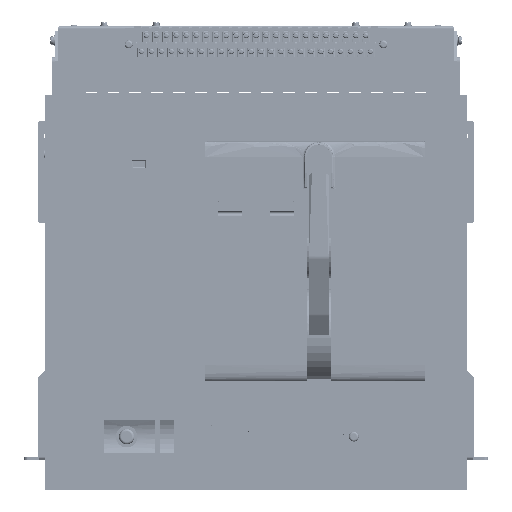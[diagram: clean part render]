
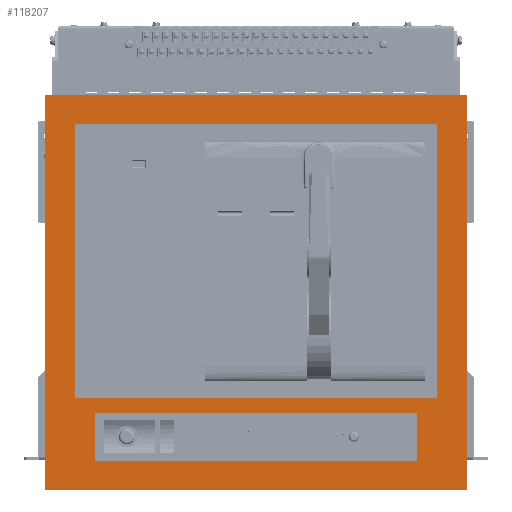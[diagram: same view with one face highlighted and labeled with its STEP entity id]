
A CAD part, top view. The second image highlights one B-rep face of the part: STEP entity #118207.
In plain terms, the highlighted planar face has unit normal (0, 0, 1) as drawn and (0, 1, 0) by its records, which use the part's own axes.
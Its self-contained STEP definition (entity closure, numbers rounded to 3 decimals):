
#6059 = CARTESIAN_POINT ( 'NONE',  ( 182., 11., 106. ) ) ;
#8941 = VERTEX_POINT ( 'NONE', #35740 ) ;
#9298 = FACE_BOUND ( 'NONE', #91748, .T. ) ;
#9935 = LINE ( 'NONE', #92922, #78814 ) ;
#11701 = DIRECTION ( 'NONE',  ( 0., 0., -1. ) ) ;
#19340 = CARTESIAN_POINT ( 'NONE',  ( -161.5, 11., 169. ) ) ;
#24926 = CARTESIAN_POINT ( 'NONE',  ( 182., 11., -169. ) ) ;
#27937 = EDGE_CURVE ( 'NONE', #318675, #94937, #283516, .T. ) ;
#31615 = CARTESIAN_POINT ( 'NONE',  ( -161.5, 11., 169. ) ) ;
#35740 = CARTESIAN_POINT ( 'NONE',  ( -212., 11., -198. ) ) ;
#38892 = DIRECTION ( 'NONE',  ( 1., 0., 0. ) ) ;
#40164 = VERTEX_POINT ( 'NONE', #225866 ) ;
#46416 = DIRECTION ( 'NONE',  ( -1., 0., 0. ) ) ;
#49275 = DIRECTION ( 'NONE',  ( 0., 0., -1. ) ) ;
#52296 = EDGE_CURVE ( 'NONE', #229572, #237822, #260141, .T. ) ;
#67342 = DIRECTION ( 'NONE',  ( 1., 0., 0. ) ) ;
#67380 = CARTESIAN_POINT ( 'NONE',  ( -212., 11., -198. ) ) ;
#69059 = PLANE ( 'NONE',  #186929 ) ;
#70414 = EDGE_CURVE ( 'NONE', #104346, #8941, #259539, .T. ) ;
#74687 = DIRECTION ( 'NONE',  ( 1., 0., 0. ) ) ;
#78598 = CARTESIAN_POINT ( 'NONE',  ( -161.5, 11., 121. ) ) ;
#78814 = VECTOR ( 'NONE', #38892, 1000. ) ;
#79893 = EDGE_CURVE ( 'NONE', #282361, #229572, #152272, .T. ) ;
#81918 = ORIENTED_EDGE ( 'NONE', *, *, #350786, .T. ) ;
#83186 = VECTOR ( 'NONE', #210447, 1000. ) ;
#87914 = CARTESIAN_POINT ( 'NONE',  ( 161.5, 11., 169. ) ) ;
#88692 = ORIENTED_EDGE ( 'NONE', *, *, #27937, .T. ) ;
#91748 = EDGE_LOOP ( 'NONE', ( #88692, #225163, #81918, #158758 ) ) ;
#92856 = LINE ( 'NONE', #6059, #83186 ) ;
#92922 = CARTESIAN_POINT ( 'NONE',  ( -161.5, 11., 121. ) ) ;
#94937 = VERTEX_POINT ( 'NONE', #31615 ) ;
#96999 = EDGE_CURVE ( 'NONE', #237822, #319311, #92856, .T. ) ;
#97955 = FACE_OUTER_BOUND ( 'NONE', #231863, .T. ) ;
#104346 = VERTEX_POINT ( 'NONE', #377013 ) ;
#108078 = EDGE_LOOP ( 'NONE', ( #374339, #132609, #378107, #317045 ) ) ;
#117462 = VECTOR ( 'NONE', #371411, 1000. ) ;
#118207 = ADVANCED_FACE ( 'NONE', ( #9298, #362148, #97955 ), #69059, .T. ) ;
#124211 = CARTESIAN_POINT ( 'NONE',  ( 212., 11., 198. ) ) ;
#125814 = ORIENTED_EDGE ( 'NONE', *, *, #136414, .T. ) ;
#128863 = VECTOR ( 'NONE', #161779, 1000. ) ;
#129297 = LINE ( 'NONE', #19340, #141343 ) ;
#130450 = CARTESIAN_POINT ( 'NONE',  ( 161.5, 11., 121. ) ) ;
#132609 = ORIENTED_EDGE ( 'NONE', *, *, #329415, .T. ) ;
#136414 = EDGE_CURVE ( 'NONE', #143985, #288827, #338828, .T. ) ;
#141343 = VECTOR ( 'NONE', #11701, 1000. ) ;
#142533 = DIRECTION ( 'NONE',  ( 0., 0., 1. ) ) ;
#143985 = VERTEX_POINT ( 'NONE', #267205 ) ;
#146531 = VERTEX_POINT ( 'NONE', #78598 ) ;
#152272 = LINE ( 'NONE', #331511, #204169 ) ;
#158758 = ORIENTED_EDGE ( 'NONE', *, *, #190998, .T. ) ;
#159879 = LINE ( 'NONE', #67380, #128863 ) ;
#161779 = DIRECTION ( 'NONE',  ( 0., 0., 1. ) ) ;
#167990 = DIRECTION ( 'NONE',  ( 0., 0., -1. ) ) ;
#183166 = VECTOR ( 'NONE', #142533, 1000. ) ;
#186929 = AXIS2_PLACEMENT_3D ( 'NONE', #217462, #304254, #248280 ) ;
#190998 = EDGE_CURVE ( 'NONE', #40164, #318675, #249948, .T. ) ;
#196875 = LINE ( 'NONE', #260452, #308207 ) ;
#200003 = CARTESIAN_POINT ( 'NONE',  ( -182., 11., -169. ) ) ;
#201183 = CARTESIAN_POINT ( 'NONE',  ( 182., 11., 106. ) ) ;
#201511 = VECTOR ( 'NONE', #228680, 1000. ) ;
#204169 = VECTOR ( 'NONE', #67342, 1000. ) ;
#204775 = ORIENTED_EDGE ( 'NONE', *, *, #70414, .T. ) ;
#210447 = DIRECTION ( 'NONE',  ( -1., 0., 0. ) ) ;
#217462 = CARTESIAN_POINT ( 'NONE',  ( 0., 11., 0. ) ) ;
#222247 = ORIENTED_EDGE ( 'NONE', *, *, #374693, .T. ) ;
#225163 = ORIENTED_EDGE ( 'NONE', *, *, #273279, .T. ) ;
#225866 = CARTESIAN_POINT ( 'NONE',  ( 161.5, 11., 121. ) ) ;
#228680 = DIRECTION ( 'NONE',  ( -1., 0., 0. ) ) ;
#229572 = VERTEX_POINT ( 'NONE', #374311 ) ;
#231863 = EDGE_LOOP ( 'NONE', ( #125814, #314462, #204775, #222247 ) ) ;
#237822 = VERTEX_POINT ( 'NONE', #201183 ) ;
#248280 = DIRECTION ( 'NONE',  ( 1., 0., 0. ) ) ;
#249948 = LINE ( 'NONE', #130450, #117462 ) ;
#252758 = VECTOR ( 'NONE', #74687, 1000. ) ;
#259539 = LINE ( 'NONE', #377185, #201511 ) ;
#260141 = LINE ( 'NONE', #24926, #183166 ) ;
#260452 = CARTESIAN_POINT ( 'NONE',  ( -182., 11., 106. ) ) ;
#267205 = CARTESIAN_POINT ( 'NONE',  ( -212., 11., 198. ) ) ;
#273279 = EDGE_CURVE ( 'NONE', #94937, #146531, #129297, .T. ) ;
#282361 = VERTEX_POINT ( 'NONE', #200003 ) ;
#283516 = LINE ( 'NONE', #341393, #303411 ) ;
#284502 = LINE ( 'NONE', #311521, #331875 ) ;
#284787 = CARTESIAN_POINT ( 'NONE',  ( -212., 11., 198. ) ) ;
#288827 = VERTEX_POINT ( 'NONE', #124211 ) ;
#303411 = VECTOR ( 'NONE', #46416, 1000. ) ;
#304254 = DIRECTION ( 'NONE',  ( 0., 1., 0. ) ) ;
#305884 = EDGE_CURVE ( 'NONE', #288827, #104346, #284502, .T. ) ;
#308207 = VECTOR ( 'NONE', #167990, 1000. ) ;
#311521 = CARTESIAN_POINT ( 'NONE',  ( 212., 11., 198. ) ) ;
#314462 = ORIENTED_EDGE ( 'NONE', *, *, #305884, .T. ) ;
#317045 = ORIENTED_EDGE ( 'NONE', *, *, #52296, .T. ) ;
#318675 = VERTEX_POINT ( 'NONE', #87914 ) ;
#319311 = VERTEX_POINT ( 'NONE', #364465 ) ;
#329415 = EDGE_CURVE ( 'NONE', #319311, #282361, #196875, .T. ) ;
#331511 = CARTESIAN_POINT ( 'NONE',  ( -182., 11., -169. ) ) ;
#331875 = VECTOR ( 'NONE', #49275, 1000. ) ;
#338828 = LINE ( 'NONE', #284787, #252758 ) ;
#341393 = CARTESIAN_POINT ( 'NONE',  ( 161.5, 11., 169. ) ) ;
#350786 = EDGE_CURVE ( 'NONE', #146531, #40164, #9935, .T. ) ;
#362148 = FACE_BOUND ( 'NONE', #108078, .T. ) ;
#364465 = CARTESIAN_POINT ( 'NONE',  ( -182., 11., 106. ) ) ;
#371411 = DIRECTION ( 'NONE',  ( 0., 0., 1. ) ) ;
#374311 = CARTESIAN_POINT ( 'NONE',  ( 182., 11., -169. ) ) ;
#374339 = ORIENTED_EDGE ( 'NONE', *, *, #96999, .T. ) ;
#374693 = EDGE_CURVE ( 'NONE', #8941, #143985, #159879, .T. ) ;
#377013 = CARTESIAN_POINT ( 'NONE',  ( 212., 11., -198. ) ) ;
#377185 = CARTESIAN_POINT ( 'NONE',  ( 212., 11., -198. ) ) ;
#378107 = ORIENTED_EDGE ( 'NONE', *, *, #79893, .T. ) ;
